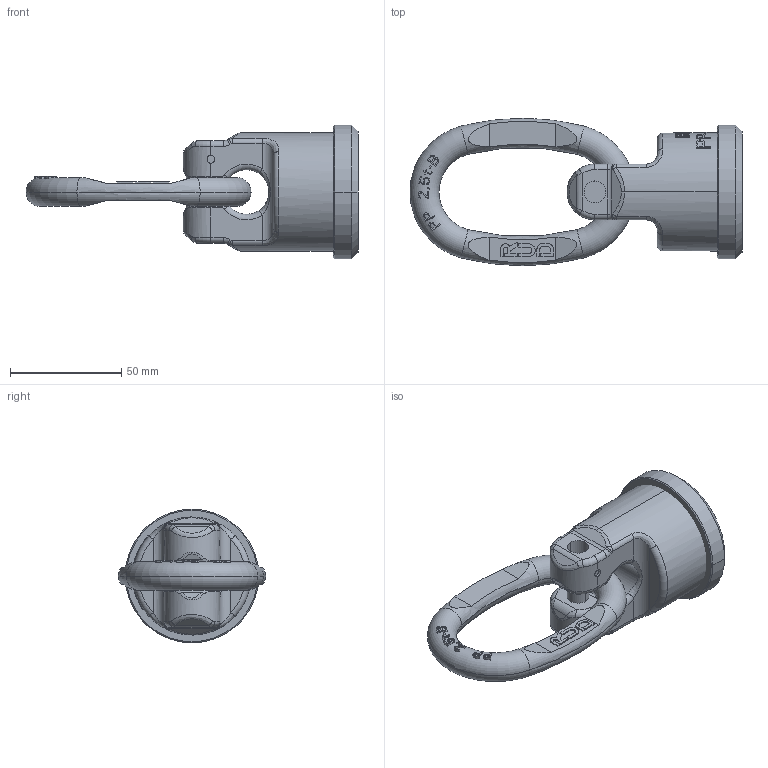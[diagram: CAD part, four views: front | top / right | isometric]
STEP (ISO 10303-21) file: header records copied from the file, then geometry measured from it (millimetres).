
FILE_DESCRIPTION((''),'2;1');
FILE_NAME('001-M31347-P-40_ASM','2018-04-27T',('Anja.Joas'),(''),'PRO/ENGINEER BY PARAMETRIC TECHNOLOGY CORPORATION, 2011490','PRO/ENGINEER BY PARAMETRIC TECHNOLOGY CORPORATION, 2011490','');
FILE_SCHEMA(('CONFIG_CONTROL_DESIGN'));
Length unit declared in the file: millimetre
Products named in the file (4): 001-M31347-P-20; 001-M31347-P-50; 001-M31290-002; 001-M31347-P-40_ASM
Assembly tree (3 placements, depth 2):
  001-M31347-P-40_ASM
    001-M31347-P-20
    001-M31347-P-50
    001-M31290-002
Bounding box: 149 x 66.08 x 60 mm (x, y, z)
Volume: 156407.8 mm3; surface area: 32470.9 mm2
Topology: 3 solids, 3 shells, 609 faces, 1629 edges, 1060 vertices
Faces by surface type: plane 478, cylinder 64, bspline 30, torus 30, cone 6, extrusion 1
Entity records: 20771 total; most frequent: CARTESIAN_POINT 6358, ORIENTED_EDGE 3258, DIRECTION 2556, EDGE_CURVE 1629, VERTEX_POINT 1060, AXIS2_PLACEMENT_3D 854, VECTOR 848, LINE 847
